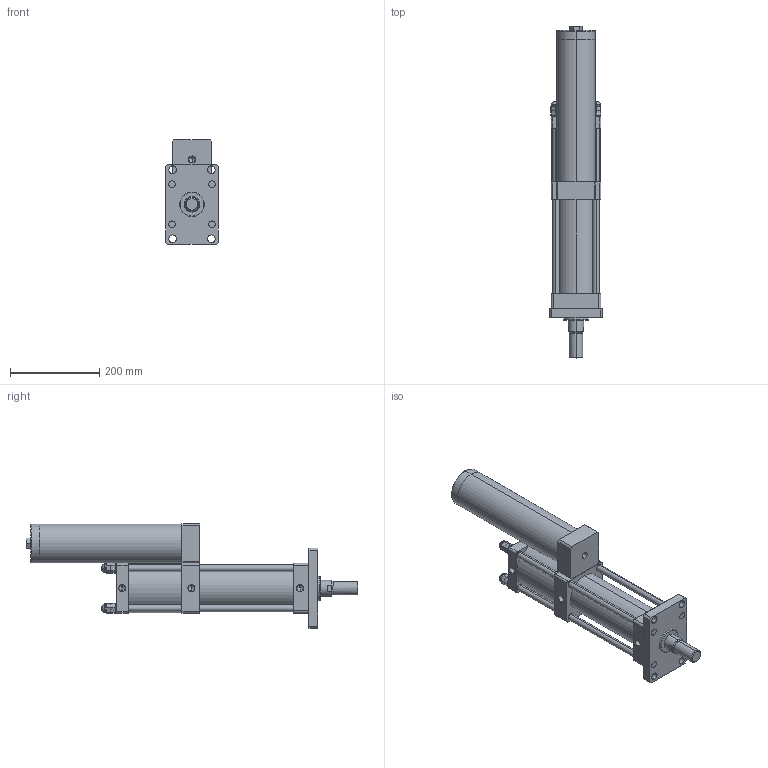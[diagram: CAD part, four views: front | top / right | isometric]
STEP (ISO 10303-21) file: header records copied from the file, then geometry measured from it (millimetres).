
FILE_DESCRIPTION (( 'STEP AP203' ), '1' );
FILE_NAME ('MPT-80-150-5-5T.STEP', '2016-03-11T01:39:45', ( 'WIN' ), ( '' ), 'SwSTEP 2.0', 'SolidWorks 2014', '' );
FILE_SCHEMA (( 'CONFIG_CONTROL_DESIGN' ));
Length unit declared in the file: millimetre
Products named in the file (1): MPT-80-150-5-5T
Bounding box: 118 x 745 x 235 mm (x, y, z)
Volume: 5114920.6 mm3; surface area: 664506.7 mm2
Topology: 20 solids, 20 shells, 391 faces, 954 edges, 554 vertices
Faces by surface type: plane 184, cylinder 84, torus 48, bspline 48, cone 27
Entity records: 12532 total; most frequent: CARTESIAN_POINT 3676, DIRECTION 1861, ORIENTED_EDGE 1776, EDGE_CURVE 888, AXIS2_PLACEMENT_3D 683, VERTEX_POINT 554, LINE 495, VECTOR 495
